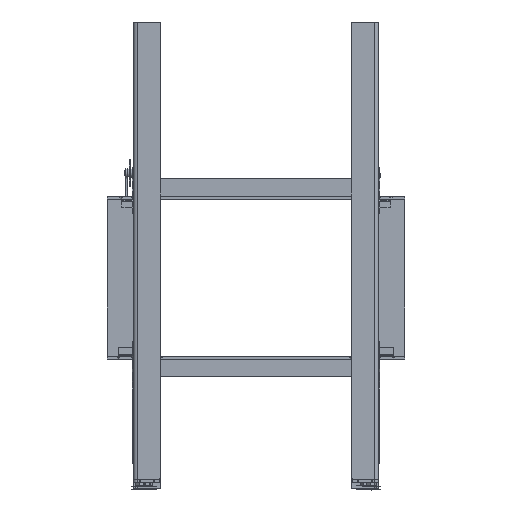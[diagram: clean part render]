
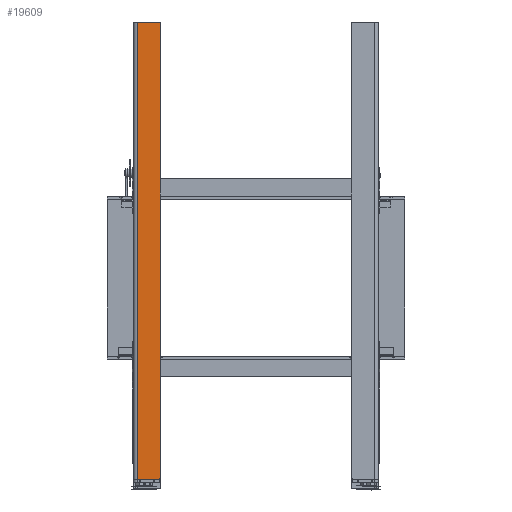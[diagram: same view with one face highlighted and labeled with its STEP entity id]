
A CAD part, front view. The second image highlights one B-rep face of the part: STEP entity #19609.
In plain terms, the highlighted planar face has unit normal (0, -1, 0).
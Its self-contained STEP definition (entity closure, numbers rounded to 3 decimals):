
#1675=LINE('',#28555,#3418);
#1678=LINE('',#28569,#3421);
#1786=LINE('',#28925,#3529);
#1800=LINE('',#28969,#3543);
#1801=LINE('',#28973,#3544);
#1802=LINE('',#28974,#3545);
#3418=VECTOR('',#22729,10.);
#3421=VECTOR('',#22740,10.);
#3529=VECTOR('',#23074,10.);
#3543=VECTOR('',#23124,10.);
#3544=VECTOR('',#23131,10.);
#3545=VECTOR('',#23132,10.);
#5261=FACE_OUTER_BOUND('',#6297,.T.);
#6297=EDGE_LOOP('',(#13550,#13551,#13552,#13553,#13554,#13555,#13556,#13557));
#7403=CIRCLE('',#20740,2.);
#7405=CIRCLE('',#20745,2.);
#8353=VERTEX_POINT('',#28541);
#8359=VERTEX_POINT('',#28553);
#8365=VERTEX_POINT('',#28566);
#8366=VERTEX_POINT('',#28568);
#8499=VERTEX_POINT('',#28918);
#8500=VERTEX_POINT('',#28920);
#8501=VERTEX_POINT('',#28924);
#8506=VERTEX_POINT('',#28938);
#10259=EDGE_CURVE('',#8359,#8353,#1675,.T.);
#10265=EDGE_CURVE('',#8366,#8365,#1678,.T.);
#10444=EDGE_CURVE('',#8500,#8499,#7403,.T.);
#10446=EDGE_CURVE('',#8501,#8500,#1786,.T.);
#10453=EDGE_CURVE('',#8506,#8501,#7405,.T.);
#10469=EDGE_CURVE('',#8499,#8366,#1800,.T.);
#10471=EDGE_CURVE('',#8353,#8365,#1801,.T.);
#10472=EDGE_CURVE('',#8506,#8359,#1802,.T.);
#13550=ORIENTED_EDGE('',*,*,#10444,.T.);
#13551=ORIENTED_EDGE('',*,*,#10469,.T.);
#13552=ORIENTED_EDGE('',*,*,#10265,.T.);
#13553=ORIENTED_EDGE('',*,*,#10471,.F.);
#13554=ORIENTED_EDGE('',*,*,#10259,.F.);
#13555=ORIENTED_EDGE('',*,*,#10472,.F.);
#13556=ORIENTED_EDGE('',*,*,#10453,.T.);
#13557=ORIENTED_EDGE('',*,*,#10446,.T.);
#19028=PLANE('',#20762);
#19609=ADVANCED_FACE('',(#5261),#19028,.T.);
#20740=AXIS2_PLACEMENT_3D('',#28921,#23069,#23070);
#20745=AXIS2_PLACEMENT_3D('',#28939,#23086,#23087);
#20762=AXIS2_PLACEMENT_3D('',#28972,#23129,#23130);
#22729=DIRECTION('',(-1.,0.,0.));
#22740=DIRECTION('',(0.,0.,-1.));
#23069=DIRECTION('center_axis',(0.,-1.,
0.));
#23070=DIRECTION('ref_axis',(0.707,0.,0.707));
#23074=DIRECTION('',(0.,0.,1.));
#23086=DIRECTION('center_axis',(0.,-1.,
0.));
#23087=DIRECTION('ref_axis',(0.707,0.,-0.707));
#23124=DIRECTION('',(-1.,0.,0.));
#23129=DIRECTION('center_axis',(0.,-1.,
0.));
#23130=DIRECTION('ref_axis',(0.,0.,
-1.));
#23131=DIRECTION('',(-1.,0.,0.));
#23132=DIRECTION('',(-1.,0.,0.));
#28541=CARTESIAN_POINT('',(-334.5,-725.489,-804.001));
#28553=CARTESIAN_POINT('',(-292.5,-725.489,-804.001));
#28555=CARTESIAN_POINT('',(-275.5,-725.489,-804.001));
#28566=CARTESIAN_POINT('',(-341.25,-725.489,-804.001));
#28568=CARTESIAN_POINT('',(-341.25,-725.507,508.499));
#28569=CARTESIAN_POINT('',(-341.25,-725.498,-147.751));
#28918=CARTESIAN_POINT('',(-277.5,-725.507,508.499));
#28920=CARTESIAN_POINT('',(-275.5,-725.507,506.499));
#28921=CARTESIAN_POINT('Origin',(-277.5,-725.507,506.499));
#28924=CARTESIAN_POINT('',(-275.5,-725.489,-802.001));
#28925=CARTESIAN_POINT('',(-275.5,-725.489,-804.001));
#28938=CARTESIAN_POINT('',(-277.5,-725.489,-804.001));
#28939=CARTESIAN_POINT('Origin',(-277.5,-725.489,-802.001));
#28969=CARTESIAN_POINT('',(-275.5,-725.507,508.499));
#28972=CARTESIAN_POINT('Origin',(-346.591,-725.498,-147.751));
#28973=CARTESIAN_POINT('',(-275.5,-725.489,-804.001));
#28974=CARTESIAN_POINT('',(-275.5,-725.489,-804.001));
